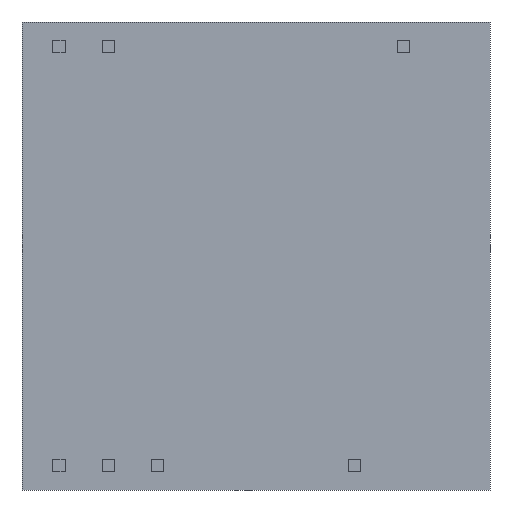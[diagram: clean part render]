
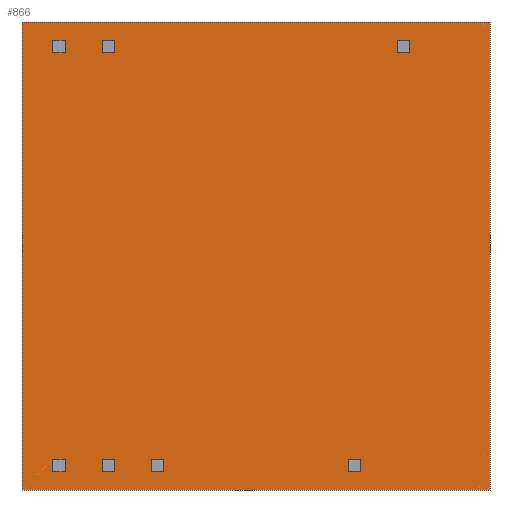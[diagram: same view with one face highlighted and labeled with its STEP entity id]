
A CAD part, front view. The second image highlights one B-rep face of the part: STEP entity #866.
In plain terms, the highlighted planar face has unit normal (0, -1, 0).
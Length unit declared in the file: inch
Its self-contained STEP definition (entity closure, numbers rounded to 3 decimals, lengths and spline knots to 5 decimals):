
#15=FACE_BOUND('',#115,.T.);
#16=FACE_BOUND('',#116,.T.);
#17=FACE_BOUND('',#117,.T.);
#18=FACE_BOUND('',#118,.T.);
#19=FACE_BOUND('',#119,.T.);
#20=FACE_BOUND('',#120,.T.);
#21=FACE_BOUND('',#121,.T.);
#67=FACE_OUTER_BOUND('',#114,.T.);
#114=EDGE_LOOP('',(#702,#703,#704,#705));
#115=EDGE_LOOP('',(#706,#707,#708,#709));
#116=EDGE_LOOP('',(#710,#711,#712,#713));
#117=EDGE_LOOP('',(#714,#715,#716,#717));
#118=EDGE_LOOP('',(#718,#719,#720,#721));
#119=EDGE_LOOP('',(#722,#723,#724,#725));
#120=EDGE_LOOP('',(#726,#727,#728,#729));
#121=EDGE_LOOP('',(#730,#731,#732,#733));
#134=LINE('',#1158,#242);
#138=LINE('',#1166,#246);
#141=LINE('',#1172,#249);
#144=LINE('',#1177,#252);
#146=LINE('',#1183,#254);
#150=LINE('',#1191,#258);
#153=LINE('',#1197,#261);
#156=LINE('',#1202,#264);
#158=LINE('',#1208,#266);
#162=LINE('',#1216,#270);
#165=LINE('',#1222,#273);
#168=LINE('',#1227,#276);
#170=LINE('',#1233,#278);
#174=LINE('',#1241,#282);
#177=LINE('',#1247,#285);
#180=LINE('',#1252,#288);
#182=LINE('',#1258,#290);
#186=LINE('',#1266,#294);
#189=LINE('',#1272,#297);
#192=LINE('',#1277,#300);
#194=LINE('',#1283,#302);
#198=LINE('',#1291,#306);
#201=LINE('',#1297,#309);
#204=LINE('',#1302,#312);
#206=LINE('',#1308,#314);
#210=LINE('',#1316,#318);
#213=LINE('',#1322,#321);
#216=LINE('',#1327,#324);
#218=LINE('',#1333,#326);
#222=LINE('',#1341,#330);
#225=LINE('',#1347,#333);
#228=LINE('',#1352,#336);
#242=VECTOR('',#953,0.3937);
#246=VECTOR('',#959,0.3937);
#249=VECTOR('',#964,0.3937);
#252=VECTOR('',#969,0.3937);
#254=VECTOR('',#975,0.3937);
#258=VECTOR('',#981,0.3937);
#261=VECTOR('',#986,0.3937);
#264=VECTOR('',#991,0.3937);
#266=VECTOR('',#997,0.3937);
#270=VECTOR('',#1003,0.3937);
#273=VECTOR('',#1008,0.3937);
#276=VECTOR('',#1013,0.3937);
#278=VECTOR('',#1019,0.3937);
#282=VECTOR('',#1025,0.3937);
#285=VECTOR('',#1030,0.3937);
#288=VECTOR('',#1035,0.3937);
#290=VECTOR('',#1041,0.3937);
#294=VECTOR('',#1047,0.3937);
#297=VECTOR('',#1052,0.3937);
#300=VECTOR('',#1057,0.3937);
#302=VECTOR('',#1063,0.3937);
#306=VECTOR('',#1069,0.3937);
#309=VECTOR('',#1074,0.3937);
#312=VECTOR('',#1079,0.3937);
#314=VECTOR('',#1085,0.3937);
#318=VECTOR('',#1091,0.3937);
#321=VECTOR('',#1096,0.3937);
#324=VECTOR('',#1101,0.3937);
#326=VECTOR('',#1107,0.3937);
#330=VECTOR('',#1113,0.3937);
#333=VECTOR('',#1118,0.3937);
#336=VECTOR('',#1123,0.3937);
#346=VERTEX_POINT('',#1156);
#347=VERTEX_POINT('',#1157);
#350=VERTEX_POINT('',#1165);
#352=VERTEX_POINT('',#1171);
#354=VERTEX_POINT('',#1181);
#355=VERTEX_POINT('',#1182);
#358=VERTEX_POINT('',#1190);
#360=VERTEX_POINT('',#1196);
#362=VERTEX_POINT('',#1206);
#363=VERTEX_POINT('',#1207);
#366=VERTEX_POINT('',#1215);
#368=VERTEX_POINT('',#1221);
#370=VERTEX_POINT('',#1231);
#371=VERTEX_POINT('',#1232);
#374=VERTEX_POINT('',#1240);
#376=VERTEX_POINT('',#1246);
#378=VERTEX_POINT('',#1256);
#379=VERTEX_POINT('',#1257);
#382=VERTEX_POINT('',#1265);
#384=VERTEX_POINT('',#1271);
#386=VERTEX_POINT('',#1281);
#387=VERTEX_POINT('',#1282);
#390=VERTEX_POINT('',#1290);
#392=VERTEX_POINT('',#1296);
#394=VERTEX_POINT('',#1306);
#395=VERTEX_POINT('',#1307);
#398=VERTEX_POINT('',#1315);
#400=VERTEX_POINT('',#1321);
#402=VERTEX_POINT('',#1331);
#403=VERTEX_POINT('',#1332);
#406=VERTEX_POINT('',#1340);
#408=VERTEX_POINT('',#1346);
#422=EDGE_CURVE('',#346,#347,#134,.T.);
#426=EDGE_CURVE('',#347,#350,#138,.T.);
#429=EDGE_CURVE('',#350,#352,#141,.T.);
#432=EDGE_CURVE('',#352,#346,#144,.T.);
#434=EDGE_CURVE('',#354,#355,#146,.T.);
#438=EDGE_CURVE('',#355,#358,#150,.T.);
#441=EDGE_CURVE('',#358,#360,#153,.T.);
#444=EDGE_CURVE('',#360,#354,#156,.T.);
#446=EDGE_CURVE('',#362,#363,#158,.T.);
#450=EDGE_CURVE('',#363,#366,#162,.T.);
#453=EDGE_CURVE('',#366,#368,#165,.T.);
#456=EDGE_CURVE('',#368,#362,#168,.T.);
#458=EDGE_CURVE('',#370,#371,#170,.T.);
#462=EDGE_CURVE('',#371,#374,#174,.T.);
#465=EDGE_CURVE('',#374,#376,#177,.T.);
#468=EDGE_CURVE('',#376,#370,#180,.T.);
#470=EDGE_CURVE('',#378,#379,#182,.T.);
#474=EDGE_CURVE('',#379,#382,#186,.T.);
#477=EDGE_CURVE('',#382,#384,#189,.T.);
#480=EDGE_CURVE('',#384,#378,#192,.T.);
#482=EDGE_CURVE('',#386,#387,#194,.T.);
#486=EDGE_CURVE('',#387,#390,#198,.T.);
#489=EDGE_CURVE('',#390,#392,#201,.T.);
#492=EDGE_CURVE('',#392,#386,#204,.T.);
#494=EDGE_CURVE('',#394,#395,#206,.T.);
#498=EDGE_CURVE('',#395,#398,#210,.T.);
#501=EDGE_CURVE('',#398,#400,#213,.T.);
#504=EDGE_CURVE('',#400,#394,#216,.T.);
#506=EDGE_CURVE('',#402,#403,#218,.T.);
#510=EDGE_CURVE('',#403,#406,#222,.T.);
#513=EDGE_CURVE('',#406,#408,#225,.T.);
#516=EDGE_CURVE('',#408,#402,#228,.T.);
#702=ORIENTED_EDGE('',*,*,#516,.T.);
#703=ORIENTED_EDGE('',*,*,#506,.T.);
#704=ORIENTED_EDGE('',*,*,#510,.T.);
#705=ORIENTED_EDGE('',*,*,#513,.T.);
#706=ORIENTED_EDGE('',*,*,#422,.T.);
#707=ORIENTED_EDGE('',*,*,#426,.T.);
#708=ORIENTED_EDGE('',*,*,#429,.T.);
#709=ORIENTED_EDGE('',*,*,#432,.T.);
#710=ORIENTED_EDGE('',*,*,#434,.T.);
#711=ORIENTED_EDGE('',*,*,#438,.T.);
#712=ORIENTED_EDGE('',*,*,#441,.T.);
#713=ORIENTED_EDGE('',*,*,#444,.T.);
#714=ORIENTED_EDGE('',*,*,#446,.T.);
#715=ORIENTED_EDGE('',*,*,#450,.T.);
#716=ORIENTED_EDGE('',*,*,#453,.T.);
#717=ORIENTED_EDGE('',*,*,#456,.T.);
#718=ORIENTED_EDGE('',*,*,#458,.T.);
#719=ORIENTED_EDGE('',*,*,#462,.T.);
#720=ORIENTED_EDGE('',*,*,#465,.T.);
#721=ORIENTED_EDGE('',*,*,#468,.T.);
#722=ORIENTED_EDGE('',*,*,#470,.T.);
#723=ORIENTED_EDGE('',*,*,#474,.T.);
#724=ORIENTED_EDGE('',*,*,#477,.T.);
#725=ORIENTED_EDGE('',*,*,#480,.T.);
#726=ORIENTED_EDGE('',*,*,#482,.T.);
#727=ORIENTED_EDGE('',*,*,#486,.T.);
#728=ORIENTED_EDGE('',*,*,#489,.T.);
#729=ORIENTED_EDGE('',*,*,#492,.T.);
#730=ORIENTED_EDGE('',*,*,#494,.T.);
#731=ORIENTED_EDGE('',*,*,#498,.T.);
#732=ORIENTED_EDGE('',*,*,#501,.T.);
#733=ORIENTED_EDGE('',*,*,#504,.T.);
#779=PLANE('',#926);
#866=ADVANCED_FACE('',(#67,#15,#16,#17,#18,#19,#20,#21),#779,.F.);
#926=AXIS2_PLACEMENT_3D('',#1355,#1127,#1128);
#953=DIRECTION('',(-1.,0.,0.));
#959=DIRECTION('',(0.,0.,1.));
#964=DIRECTION('',(1.,0.,0.));
#969=DIRECTION('',(0.,0.,-1.));
#975=DIRECTION('',(0.,0.,-1.));
#981=DIRECTION('',(-1.,0.,0.));
#986=DIRECTION('',(0.,0.,1.));
#991=DIRECTION('',(1.,0.,0.));
#997=DIRECTION('',(0.,0.,-1.));
#1003=DIRECTION('',(-1.,0.,0.));
#1008=DIRECTION('',(0.,0.,1.));
#1013=DIRECTION('',(1.,0.,0.));
#1019=DIRECTION('',(-1.,0.,0.));
#1025=DIRECTION('',(0.,0.,1.));
#1030=DIRECTION('',(1.,0.,0.));
#1035=DIRECTION('',(0.,0.,-1.));
#1041=DIRECTION('',(0.,0.,1.));
#1047=DIRECTION('',(1.,0.,0.));
#1052=DIRECTION('',(0.,0.,-1.));
#1057=DIRECTION('',(-1.,0.,0.));
#1063=DIRECTION('',(1.,0.,0.));
#1069=DIRECTION('',(0.,0.,-1.));
#1074=DIRECTION('',(-1.,0.,0.));
#1079=DIRECTION('',(0.,0.,1.));
#1085=DIRECTION('',(-1.,0.,0.));
#1091=DIRECTION('',(0.,0.,1.));
#1096=DIRECTION('',(1.,0.,0.));
#1101=DIRECTION('',(0.,0.,-1.));
#1107=DIRECTION('',(0.,0.,-1.));
#1113=DIRECTION('',(1.,0.,0.));
#1118=DIRECTION('',(0.,0.,1.));
#1123=DIRECTION('',(-1.,0.,0.));
#1127=DIRECTION('center_axis',(0.,1.,0.));
#1128=DIRECTION('ref_axis',(1.,0.,0.));
#1156=CARTESIAN_POINT('',(0.6875,0.,0.0375));
#1157=CARTESIAN_POINT('',(0.6625,0.,0.0375));
#1158=CARTESIAN_POINT('',(0.56875,0.,0.0375));
#1165=CARTESIAN_POINT('',(0.6625,0.,0.0625));
#1166=CARTESIAN_POINT('',(0.6625,0.,0.26875));
#1171=CARTESIAN_POINT('',(0.6875,0.,0.0625));
#1172=CARTESIAN_POINT('',(0.58125,0.,0.0625));
#1177=CARTESIAN_POINT('',(0.6875,0.,0.25625));
#1181=CARTESIAN_POINT('',(0.7875,0.,0.9125));
#1182=CARTESIAN_POINT('',(0.7875,0.,0.8875));
#1183=CARTESIAN_POINT('',(0.7875,0.,0.68125));
#1190=CARTESIAN_POINT('',(0.7625,0.,0.8875));
#1191=CARTESIAN_POINT('',(0.61875,0.,0.8875));
#1196=CARTESIAN_POINT('',(0.7625,0.,0.9125));
#1197=CARTESIAN_POINT('',(0.7625,0.,0.69375));
#1202=CARTESIAN_POINT('',(0.63125,0.,0.9125));
#1206=CARTESIAN_POINT('',(0.1875,0.,0.9125));
#1207=CARTESIAN_POINT('',(0.1875,0.,0.8875));
#1208=CARTESIAN_POINT('',(0.1875,0.,0.68125));
#1215=CARTESIAN_POINT('',(0.1625,0.,0.8875));
#1216=CARTESIAN_POINT('',(0.31875,0.,0.8875));
#1221=CARTESIAN_POINT('',(0.1625,0.,0.9125));
#1222=CARTESIAN_POINT('',(0.1625,0.,0.69375));
#1227=CARTESIAN_POINT('',(0.33125,0.,0.9125));
#1231=CARTESIAN_POINT('',(0.2875,0.,0.0375));
#1232=CARTESIAN_POINT('',(0.2625,0.,0.0375));
#1233=CARTESIAN_POINT('',(0.36875,0.,0.0375));
#1240=CARTESIAN_POINT('',(0.2625,0.,0.0625));
#1241=CARTESIAN_POINT('',(0.2625,0.,0.26875));
#1246=CARTESIAN_POINT('',(0.2875,0.,0.0625));
#1247=CARTESIAN_POINT('',(0.38125,0.,0.0625));
#1252=CARTESIAN_POINT('',(0.2875,0.,0.25625));
#1256=CARTESIAN_POINT('',(0.0625,0.,0.0375));
#1257=CARTESIAN_POINT('',(0.0625,0.,0.0625));
#1258=CARTESIAN_POINT('',(0.0625,0.,0.26875));
#1265=CARTESIAN_POINT('',(0.0875,0.,0.0625));
#1266=CARTESIAN_POINT('',(0.28125,0.,0.0625));
#1271=CARTESIAN_POINT('',(0.0875,0.,0.0375));
#1272=CARTESIAN_POINT('',(0.0875,0.,0.25625));
#1277=CARTESIAN_POINT('',(0.26875,0.,0.0375));
#1281=CARTESIAN_POINT('',(0.0625,0.,0.9125));
#1282=CARTESIAN_POINT('',(0.0875,0.,0.9125));
#1283=CARTESIAN_POINT('',(0.28125,0.,0.9125));
#1290=CARTESIAN_POINT('',(0.0875,0.,0.8875));
#1291=CARTESIAN_POINT('',(0.0875,0.,0.68125));
#1296=CARTESIAN_POINT('',(0.0625,0.,0.8875));
#1297=CARTESIAN_POINT('',(0.26875,0.,0.8875));
#1302=CARTESIAN_POINT('',(0.0625,0.,0.69375));
#1306=CARTESIAN_POINT('',(0.1875,0.,0.0375));
#1307=CARTESIAN_POINT('',(0.1625,0.,0.0375));
#1308=CARTESIAN_POINT('',(0.31875,0.,0.0375));
#1315=CARTESIAN_POINT('',(0.1625,0.,0.0625));
#1316=CARTESIAN_POINT('',(0.1625,0.,0.26875));
#1321=CARTESIAN_POINT('',(0.1875,0.,0.0625));
#1322=CARTESIAN_POINT('',(0.33125,0.,0.0625));
#1327=CARTESIAN_POINT('',(0.1875,0.,0.25625));
#1331=CARTESIAN_POINT('',(0.,0.,0.95));
#1332=CARTESIAN_POINT('',(0.,0.,0.));
#1333=CARTESIAN_POINT('',(0.,0.,0.95));
#1340=CARTESIAN_POINT('',(0.95,0.,0.));
#1341=CARTESIAN_POINT('',(0.,0.,0.));
#1346=CARTESIAN_POINT('',(0.95,0.,0.95));
#1347=CARTESIAN_POINT('',(0.95,0.,0.));
#1352=CARTESIAN_POINT('',(0.95,0.,0.95));
#1355=CARTESIAN_POINT('Origin',(0.475,0.,0.475));
